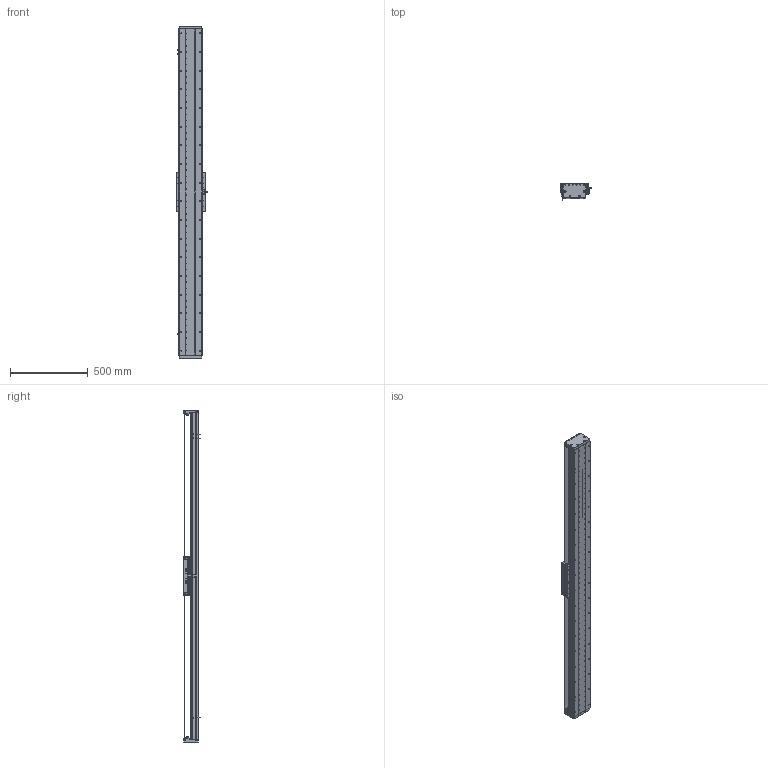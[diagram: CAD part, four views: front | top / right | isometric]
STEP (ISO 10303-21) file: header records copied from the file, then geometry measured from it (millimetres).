
FILE_DESCRIPTION (( 'STEP AP203' ), '1' );
FILE_NAME ('DA-C145-C3-T1800-C010-0.2 眻盄萇儂.STEP', '2025-08-14T01:28:47', ( '' ), ( '' ), 'SwSTEP 2.0', 'SolidWorks 2019', '' );
FILE_SCHEMA (( 'CONFIG_CONTROL_DESIGN' ));
Length unit declared in the file: millimetre
Products named in the file (32): 葩璃 CKMA01-W060-TRL^DA-C145-C3-T-C010-0.2; 葩璃 DA145-C3-DP-B-00 菜えB^CU145-W 幗紩賑怢; 复件 DA145-GYP-00 光电感应片^DA-C145-C3-T-C010-0.2; TAY01-M8; 复件 DA95-HK-GT-00 滑块钢轨^CU145-W-00 一体化滑动台板; 葩璃 DA95-HXJ-00 遣喳砎蝶^DA-C145-C3-T-C010-0.2; 复件 纯铜油杯 6x6mm^CU145-W 滚珠滑台; 复件 DA145-C3-YB-B-00 压板B^CU145-W 滚珠滑台; 葩璃 CU145 詩湍郪璃^DA-C145-C3-T-C010-0.2; 葩璃 DMA-010-0.2 黍杅芛^DA-C145-C3-T-C010-0.2; 复件 DA146 钢带拉块^复件 CU145 钢带组件_DA-C145-C3-T-C010-0.2; 复件 DA95-DB-00  挡板^CU145-W 滚珠滑台; 葩璃 XD-U-02L 棠掑喜^DA-C145-C3-T-C010-0.2; 复件 半圆头内六角螺钉 M3×6^CU145-W 滚珠滑台; IU-CU145-L-00 菁釱(L2100); CU145-W-00 珨极趙賑雄怢啣; CU145-W 幗紩賑怢; 复件 DA145-C3-DK-00 挡块^CU145-W 滚珠滑台; 葩璃 DA95-GT-T-00^IU-CU145-L 菁釱絳寢; 葩璃 PM-T45^DA-C145-C3-T-C010-0.2; 复件 DA146 钢带垫块^复件 CU145 钢带组件_DA-C145-C3-T-C010-0.2; 复件 DA145-DG 钢带端盖^复件 CU145 钢带组件_DA-C145-C3-T-C010-0.2; IU-CU145-L 菁釱絳寢; 复件 DA95-MFP-01 密封片^CU145-W 滚珠滑台; 66245-CU145-HT-W-00 賑雄怢啣(3D芞祧)(00); DA-C145-C3-T1800-C010-0.2 眻盄萇儂; 葩璃 DA145-C3-DP-A-00 菜えA^CU145-W 幗紩賑怢; 复件 内六角平端紧定螺钉 GB.T77-2000 M5×10^CU145-W 滚珠滑台; 葩璃 CKM03-W060-C1C2-TP-0.2^DA-C145-C3-T-C010-0.2; 葩璃 鞠褒情蹟譫 M3^DA-C145-C3-T-C010-0.2; 复件 DA145-C3-YB-A-00 压板A^CU145-W 滚珠滑台; 复件 DA145 钢带^复件 CU145 钢带组件_DA-C145-C3-T-C010-0.2
Assembly tree (103 placements, depth 4):
  DA-C145-C3-T1800-C010-0.2 眻盄萇儂
    IU-CU145-L 菁釱絳寢
      IU-CU145-L-00 菁釱(L2100)
      葩璃 DA95-GT-T-00^IU-CU145-L 菁釱絳寢  x4
    葩璃 CU145 詩湍郪璃^DA-C145-C3-T-C010-0.2
      复件 DA145-DG 钢带端盖^复件 CU145 钢带组件_DA-C145-C3-T-C010-0.2  x2
      复件 DA146 钢带拉块^复件 CU145 钢带组件_DA-C145-C3-T-C010-0.2  x2
      复件 DA146 钢带垫块^复件 CU145 钢带组件_DA-C145-C3-T-C010-0.2  x2
      复件 DA145 钢带^复件 CU145 钢带组件_DA-C145-C3-T-C010-0.2
    CU145-W 幗紩賑怢
      CU145-W-00 珨极趙賑雄怢啣
        66245-CU145-HT-W-00 賑雄怢啣(3D芞祧)(00)
        复件 DA95-HK-GT-00 滑块钢轨^CU145-W-00 一体化滑动台板  x8
      复件 DA95-MFP-01 密封片^CU145-W 滚珠滑台  x8
      复件 DA95-DB-00  挡板^CU145-W 滚珠滑台  x8
      复件 内六角平端紧定螺钉 GB.T77-2000 M5×10^CU145-W 滚珠滑台  x4
      复件 纯铜油杯 6x6mm^CU145-W 滚珠滑台  x4
      复件 半圆头内六角螺钉 M3×6^CU145-W 滚珠滑台  x16
      复件 DA145-C3-DK-00 挡块^CU145-W 滚珠滑台  x4
      葩璃 DA145-C3-DP-B-00 菜えB^CU145-W 幗紩賑怢  x2
      复件 DA145-C3-YB-B-00 压板B^CU145-W 滚珠滑台  x2
      葩璃 DA145-C3-DP-A-00 菜えA^CU145-W 幗紩賑怢  x3
      复件 DA145-C3-YB-A-00 压板A^CU145-W 滚珠滑台  x3
      TAY01-M8  x4
    葩璃 CKMA01-W060-TRL^DA-C145-C3-T-C010-0.2
    葩璃 PM-T45^DA-C145-C3-T-C010-0.2  x3
    葩璃 XD-U-02L 棠掑喜^DA-C145-C3-T-C010-0.2
    葩璃 DA95-HXJ-00 遣喳砎蝶^DA-C145-C3-T-C010-0.2  x4
    复件 DA145-GYP-00 光电感应片^DA-C145-C3-T-C010-0.2
    葩璃 DMA-010-0.2 黍杅芛^DA-C145-C3-T-C010-0.2
    葩璃 CKM03-W060-C1C2-TP-0.2^DA-C145-C3-T-C010-0.2
    葩璃 鞠褒情蹟譫 M3^DA-C145-C3-T-C010-0.2  x8
Bounding box: 203.5 x 108.45 x 2136 mm (x, y, z)
Volume: 10496538.2 mm3; surface area: 3439261.7 mm2
Topology: 99 solids, 131 shells, 4465 faces, 12482 edges, 7786 vertices
Faces by surface type: cylinder 2109, plane 1588, cone 690, torus 74, sphere 4
Entity records: 116360 total; most frequent: CARTESIAN_POINT 33222, ORIENTED_EDGE 16484, DIRECTION 16001, EDGE_CURVE 8242, AXIS2_PLACEMENT_3D 6000, VERTEX_POINT 5325, VECTOR 4001, LINE 4001
